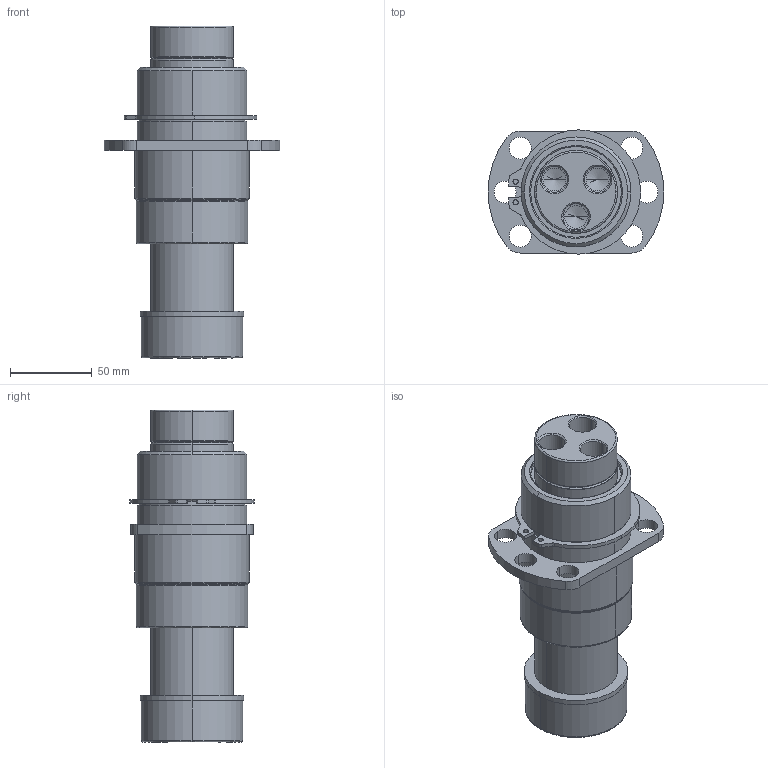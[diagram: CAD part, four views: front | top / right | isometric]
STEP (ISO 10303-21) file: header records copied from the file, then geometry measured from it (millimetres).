
FILE_DESCRIPTION (( 'STEP AP214' ), '1' );
FILE_NAME ('GK205-N4-2-TB-M-XXX.STEP', '2020-09-22T13:55:38', ( '' ), ( '' ), 'SwSTEP 2.0', 'SolidWorks 2017', '' );
FILE_SCHEMA (( 'AUTOMOTIVE_DESIGN' ));
Length unit declared in the file: inch
Products named in the file (7): GK205-N4-2-TB-M-XXX; RetainingRing; GK205-DampeningWasher; GK205-M-XXX-GuidePin; GK2.00-N4-2-TB-Base
Assembly tree (6 placements, depth 3):
  GK205-N4-2-TB-M-XXX
    GK2.00-N4-2-TB-Base
      GK2.00-N4-2-TB-Base
      RetainingRing
    GK205-M-XXX-GuidePin
      GK205-M-XXX-GuidePin
      GK205-DampeningWasher
Bounding box: 107.7 x 76.06 x 203.2 mm (x, y, z)
Volume: 610420.4 mm3; surface area: 103629.1 mm2
Topology: 4 solids, 4 shells, 136 faces, 330 edges, 205 vertices
Faces by surface type: cylinder 68, cone 24, bspline 22, plane 22
Entity records: 4942 total; most frequent: CARTESIAN_POINT 1256, DIRECTION 762, ORIENTED_EDGE 648, EDGE_CURVE 324, AXIS2_PLACEMENT_3D 323, VERTEX_POINT 205, CIRCLE 198, EDGE_LOOP 165
